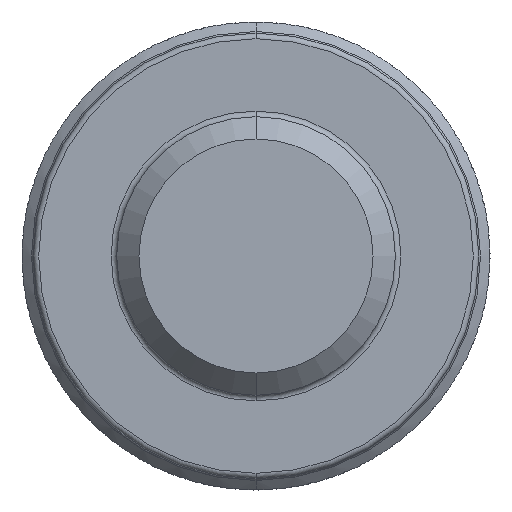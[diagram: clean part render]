
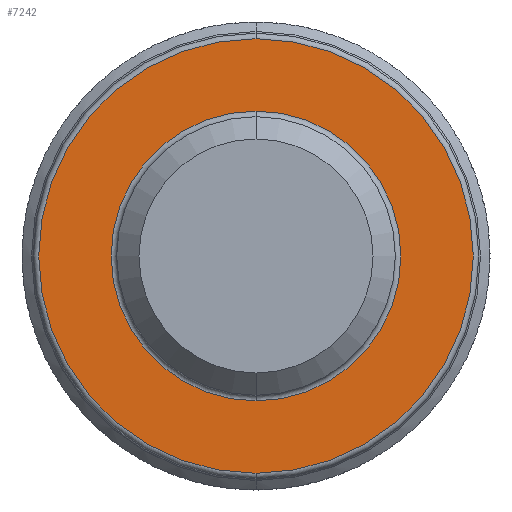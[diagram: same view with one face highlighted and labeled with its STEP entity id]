
A CAD part, front view. The second image highlights one B-rep face of the part: STEP entity #7242.
In plain terms, the highlighted planar face has unit normal (0, -1, 0).
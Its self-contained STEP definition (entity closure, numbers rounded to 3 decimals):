
#129 = CARTESIAN_POINT ( 'NONE',  ( 0., -5., -2.6 ) ) ;
#161 = ORIENTED_EDGE ( 'NONE', *, *, #7797, .T. ) ;
#314 = CIRCLE ( 'NONE', #4911, 2.6 ) ;
#417 = DIRECTION ( 'NONE',  ( 0., 1., 0. ) ) ;
#480 = CARTESIAN_POINT ( 'NONE',  ( 0., -5., 0. ) ) ;
#923 = DIRECTION ( 'NONE',  ( 0., 0., -1. ) ) ;
#1066 = VERTEX_POINT ( 'NONE', #129 ) ;
#1222 = DIRECTION ( 'NONE',  ( 0., 0., -1. ) ) ;
#1319 = AXIS2_PLACEMENT_3D ( 'NONE', #480, #4332, #1222 ) ;
#1412 = DIRECTION ( 'NONE',  ( 0., 0., -1. ) ) ;
#1480 = AXIS2_PLACEMENT_3D ( 'NONE', #5525, #7502, #923 ) ;
#1779 = VERTEX_POINT ( 'NONE', #7644 ) ;
#2376 = PLANE ( 'NONE',  #5181 ) ;
#3045 = FACE_BOUND ( 'NONE', #3327, .T. ) ;
#3088 = CIRCLE ( 'NONE', #1480, 3.9 ) ;
#3131 = FACE_OUTER_BOUND ( 'NONE', #6044, .T. ) ;
#3327 = EDGE_LOOP ( 'NONE', ( #6440, #6269 ) ) ;
#3329 = EDGE_CURVE ( 'NONE', #8219, #1779, #3088, .T. ) ;
#3464 = CARTESIAN_POINT ( 'NONE',  ( 0., -5., -3.9 ) ) ;
#4289 = CIRCLE ( 'NONE', #6988, 2.6 ) ;
#4332 = DIRECTION ( 'NONE',  ( 0., -1., 0. ) ) ;
#4350 = VERTEX_POINT ( 'NONE', #8104 ) ;
#4491 = CARTESIAN_POINT ( 'NONE',  ( 0., -5., 0. ) ) ;
#4818 = DIRECTION ( 'NONE',  ( 0., 0., -1. ) ) ;
#4911 = AXIS2_PLACEMENT_3D ( 'NONE', #4491, #7102, #1412 ) ;
#5181 = AXIS2_PLACEMENT_3D ( 'NONE', #8078, #7522, #5628 ) ;
#5410 = CARTESIAN_POINT ( 'NONE',  ( 0., -5., 0. ) ) ;
#5525 = CARTESIAN_POINT ( 'NONE',  ( 0., -5., 0. ) ) ;
#5628 = DIRECTION ( 'NONE',  ( 0., 0., -1. ) ) ;
#6044 = EDGE_LOOP ( 'NONE', ( #7770, #161 ) ) ;
#6269 = ORIENTED_EDGE ( 'NONE', *, *, #7274, .T. ) ;
#6440 = ORIENTED_EDGE ( 'NONE', *, *, #8283, .T. ) ;
#6988 = AXIS2_PLACEMENT_3D ( 'NONE', #5410, #417, #4818 ) ;
#7102 = DIRECTION ( 'NONE',  ( 0., 1., 0. ) ) ;
#7242 = ADVANCED_FACE ( 'NONE', ( #3045, #3131 ), #2376, .T. ) ;
#7274 = EDGE_CURVE ( 'NONE', #4350, #1066, #314, .T. ) ;
#7502 = DIRECTION ( 'NONE',  ( 0., -1., 0. ) ) ;
#7522 = DIRECTION ( 'NONE',  ( 0., -1., 0. ) ) ;
#7644 = CARTESIAN_POINT ( 'NONE',  ( 0., -5., 3.9 ) ) ;
#7770 = ORIENTED_EDGE ( 'NONE', *, *, #3329, .T. ) ;
#7797 = EDGE_CURVE ( 'NONE', #1779, #8219, #8324, .T. ) ;
#8078 = CARTESIAN_POINT ( 'NONE',  ( 2.5, -5., 0. ) ) ;
#8104 = CARTESIAN_POINT ( 'NONE',  ( 0., -5., 2.6 ) ) ;
#8219 = VERTEX_POINT ( 'NONE', #3464 ) ;
#8283 = EDGE_CURVE ( 'NONE', #1066, #4350, #4289, .T. ) ;
#8324 = CIRCLE ( 'NONE', #1319, 3.9 ) ;
